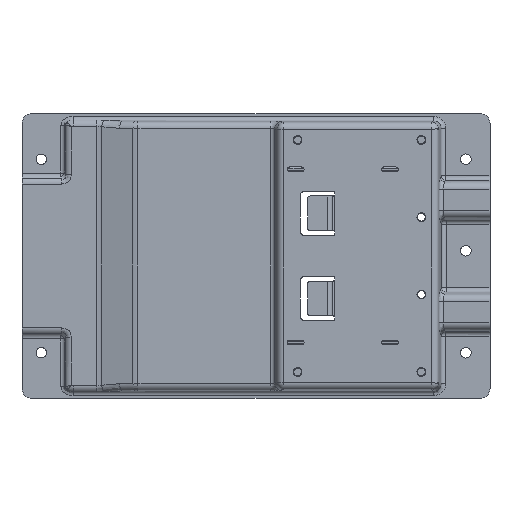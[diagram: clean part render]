
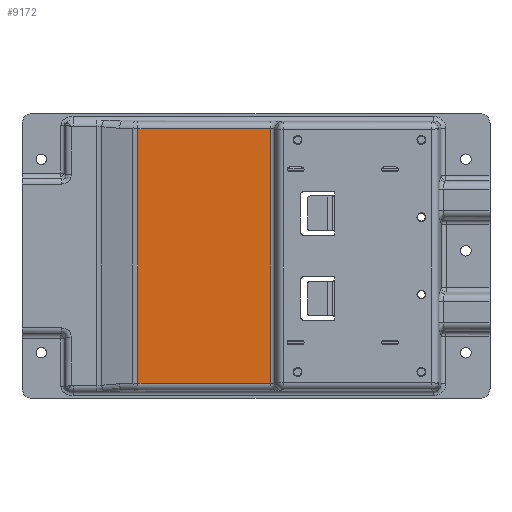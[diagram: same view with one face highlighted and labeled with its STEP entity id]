
A CAD part, top view. The second image highlights one B-rep face of the part: STEP entity #9172.
In plain terms, the highlighted planar face has unit normal (0, 0, 1).
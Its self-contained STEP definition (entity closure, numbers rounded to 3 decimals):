
#4536=CARTESIAN_POINT('Vertex',(-333.046,597.272,20.9)) ;
#4737=CARTESIAN_POINT('Vertex',(-195.887,597.272,20.9)) ;
#4763=CARTESIAN_POINT('Line Origine',(-213.613,597.272,20.9)) ;
#6119=CARTESIAN_POINT('Vertex',(-195.887,860.728,20.9)) ;
#6149=CARTESIAN_POINT('Vertex',(-333.046,860.728,20.9)) ;
#6152=CARTESIAN_POINT('Line Origine',(-213.613,860.728,20.9)) ;
#8882=CARTESIAN_POINT('Line Origine',(-333.046,659.262,20.9)) ;
#9149=CARTESIAN_POINT('Line Origine',(-195.887,659.7,20.9)) ;
#9161=CARTESIAN_POINT('Axis2P3D Location',(-193.,729.,20.9)) ;
#4764=DIRECTION('Vector Direction',(-1.,0.,0.)) ;
#6153=DIRECTION('Vector Direction',(1.,0.,0.)) ;
#8883=DIRECTION('Vector Direction',(0.,-1.,0.)) ;
#9150=DIRECTION('Vector Direction',(0.,-1.,0.)) ;
#9162=DIRECTION('Axis2P3D Direction',(0.,0.,1.)) ;
#9163=DIRECTION('Axis2P3D XDirection',(-1.,0.,0.)) ;
#9164=AXIS2_PLACEMENT_3D('Plane Axis2P3D',#9161,#9162,#9163) ;
#9167=ORIENTED_EDGE('',*,*,#4767,.T.) ;
#9168=ORIENTED_EDGE('',*,*,#9153,.F.) ;
#9169=ORIENTED_EDGE('',*,*,#6156,.F.) ;
#9170=ORIENTED_EDGE('',*,*,#8886,.F.) ;
#4765=VECTOR('Line Direction',#4764,1.) ;
#6154=VECTOR('Line Direction',#6153,1.) ;
#8884=VECTOR('Line Direction',#8883,1.) ;
#9151=VECTOR('Line Direction',#9150,1.) ;
#9172=ADVANCED_FACE('SHT0017894-\X2\526F9A7E5E95652F67B64E0A677F\X0\',(#9171),#9165,.T.) ;
#4767=EDGE_CURVE('',#4537,#4738,#4766,.F.) ;
#6156=EDGE_CURVE('',#6150,#6120,#6155,.T.) ;
#8886=EDGE_CURVE('',#4537,#6150,#8885,.F.) ;
#9153=EDGE_CURVE('',#6120,#4738,#9152,.T.) ;
#9166=EDGE_LOOP('',(#9167,#9168,#9169,#9170)) ;
#9171=FACE_OUTER_BOUND('',#9166,.T.) ;
#4766=LINE('Line',#4763,#4765) ;
#6155=LINE('Line',#6152,#6154) ;
#8885=LINE('Line',#8882,#8884) ;
#9152=LINE('Line',#9149,#9151) ;
#9165=PLANE('Plane',#9164) ;
#4537=VERTEX_POINT('',#4536) ;
#4738=VERTEX_POINT('',#4737) ;
#6120=VERTEX_POINT('',#6119) ;
#6150=VERTEX_POINT('',#6149) ;
